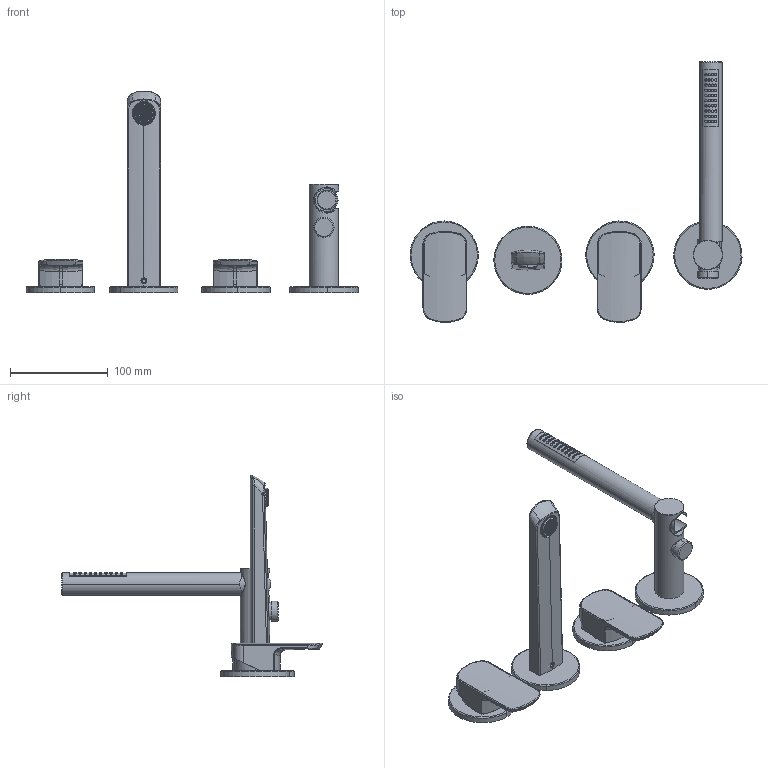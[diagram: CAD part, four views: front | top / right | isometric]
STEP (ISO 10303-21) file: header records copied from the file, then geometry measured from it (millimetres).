
FILE_DESCRIPTION (( 'STEP AP214' ), '1' );
FILE_NAME ('56139910 x architetti.STEP', '2024-10-24T12:45:56', ( '' ), ( '' ), 'SwSTEP 2.0', 'SolidWorks 2020', '' );
FILE_SCHEMA (( 'AUTOMOTIVE_DESIGN' ));
Length unit declared in the file: millimetre
Products named in the file (1): 56139910 x architetti
Bounding box: 339.98 x 266.93 x 206.8 mm (x, y, z)
Volume: 469394.2 mm3; surface area: 121181.7 mm2
Topology: 6 solids, 22 shells, 2075 faces, 5155 edges, 3189 vertices
Faces by surface type: plane 1075, cylinder 832, bspline 96, cone 53, torus 19
Entity records: 95629 total; most frequent: CARTESIAN_POINT 28871, ORIENTED_EDGE 10294, DIRECTION 7714, EDGE_CURVE 5147, VERTEX_POINT 3189, VECTOR 2908, LINE 2908, AXIS2_PLACEMENT_3D 2403
